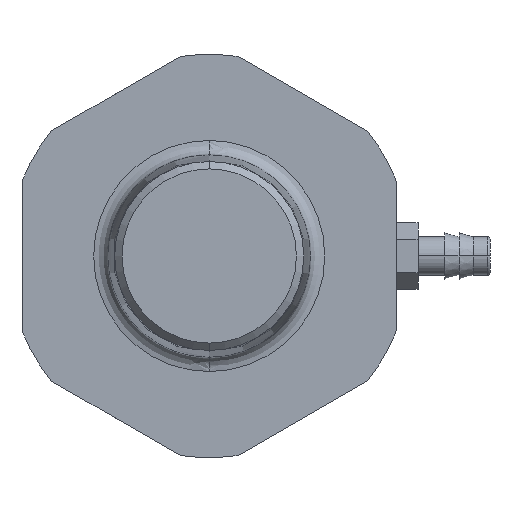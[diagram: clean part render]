
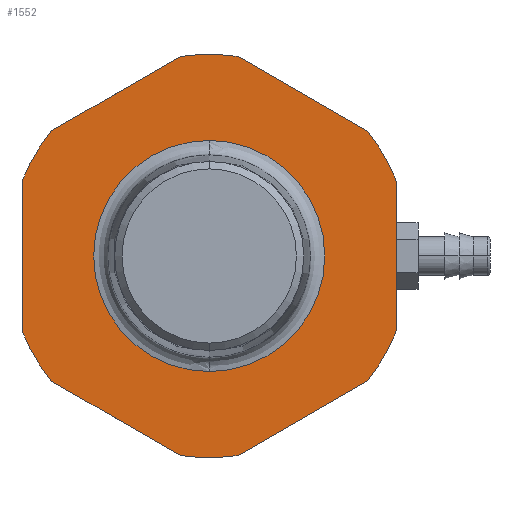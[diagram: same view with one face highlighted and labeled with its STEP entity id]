
A CAD part, left-side view. The second image highlights one B-rep face of the part: STEP entity #1552.
In plain terms, the highlighted planar face has unit normal (-1, 0, 0).
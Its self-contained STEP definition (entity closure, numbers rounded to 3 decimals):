
#1324=CARTESIAN_POINT('',(-2.875,0.0,0.501));
#1325=VERTEX_POINT('',#1324);
#1335=CARTESIAN_POINT('',(-2.875,0.,-0.501));
#1336=VERTEX_POINT('',#1335);
#1337=CARTESIAN_POINT('',(-2.875,0.0,0.0));
#1338=DIRECTION('',(-1.0,0.0,0.0));
#1339=DIRECTION('',(0.0,0.0,1.0));
#1340=AXIS2_PLACEMENT_3D('',#1337,#1338,#1339);
#1341=CIRCLE('',#1340,0.501);
#1342=EDGE_CURVE('',#1325,#1336,#1341,.T.);
#1433=CARTESIAN_POINT('',(-2.875,0.,0.0));
#1434=DIRECTION('',(-1.0,0.0,0.0));
#1435=DIRECTION('',(0.0,0.0,1.0));
#1436=AXIS2_PLACEMENT_3D('',#1433,#1434,#1435);
#1437=PLANE('',#1436);
#1438=CARTESIAN_POINT('',(-2.875,-0.125,-0.866));
#1439=VERTEX_POINT('',#1438);
#1440=CARTESIAN_POINT('',(-2.875,0.125,-0.866));
#1441=VERTEX_POINT('',#1440);
#1442=CARTESIAN_POINT('',(-2.875,0.,0.0));
#1443=DIRECTION('',(1.0,0.0,0.0));
#1444=DIRECTION('',(0.0,0.0,-1.0));
#1445=AXIS2_PLACEMENT_3D('',#1442,#1443,#1444);
#1446=CIRCLE('',#1445,0.875);
#1447=EDGE_CURVE('',#1439,#1441,#1446,.T.);
#1448=ORIENTED_EDGE('',*,*,#1447,.F.);
#1449=CARTESIAN_POINT('',(-2.875,-0.688,-0.541));
#1450=VERTEX_POINT('',#1449);
#1451=CARTESIAN_POINT('',(-2.875,-0.688,-0.541));
#1452=DIRECTION('',(0.0,0.866,-0.5));
#1453=VECTOR('',#1452,0.65);
#1454=LINE('',#1451,#1453);
#1455=EDGE_CURVE('',#1450,#1439,#1454,.T.);
#1456=ORIENTED_EDGE('',*,*,#1455,.F.);
#1457=CARTESIAN_POINT('',(-2.875,-0.813,-0.325));
#1458=VERTEX_POINT('',#1457);
#1459=CARTESIAN_POINT('',(-2.875,0.,0.0));
#1460=DIRECTION('',(1.0,0.0,0.0));
#1461=DIRECTION('',(0.0,-0.866,-0.5));
#1462=AXIS2_PLACEMENT_3D('',#1459,#1460,#1461);
#1463=CIRCLE('',#1462,0.875);
#1464=EDGE_CURVE('',#1458,#1450,#1463,.T.);
#1465=ORIENTED_EDGE('',*,*,#1464,.F.);
#1466=CARTESIAN_POINT('',(-2.875,-0.813,0.325));
#1467=VERTEX_POINT('',#1466);
#1468=CARTESIAN_POINT('',(-2.875,-0.813,0.325));
#1469=DIRECTION('',(0.0,0.0,-1.0));
#1470=VECTOR('',#1469,0.65);
#1471=LINE('',#1468,#1470);
#1472=EDGE_CURVE('',#1467,#1458,#1471,.T.);
#1473=ORIENTED_EDGE('',*,*,#1472,.F.);
#1474=CARTESIAN_POINT('',(-2.875,-0.688,0.541));
#1475=VERTEX_POINT('',#1474);
#1476=CARTESIAN_POINT('',(-2.875,0.0,0.0));
#1477=DIRECTION('',(1.0,0.0,0.0));
#1478=DIRECTION('',(0.0,-0.866,0.5));
#1479=AXIS2_PLACEMENT_3D('',#1476,#1477,#1478);
#1480=CIRCLE('',#1479,0.875);
#1481=EDGE_CURVE('',#1475,#1467,#1480,.T.);
#1482=ORIENTED_EDGE('',*,*,#1481,.F.);
#1483=CARTESIAN_POINT('',(-2.875,-0.125,0.866));
#1484=VERTEX_POINT('',#1483);
#1485=CARTESIAN_POINT('',(-2.875,-0.125,0.866));
#1486=DIRECTION('',(0.0,-0.866,-0.5));
#1487=VECTOR('',#1486,0.65);
#1488=LINE('',#1485,#1487);
#1489=EDGE_CURVE('',#1484,#1475,#1488,.T.);
#1490=ORIENTED_EDGE('',*,*,#1489,.F.);
#1491=CARTESIAN_POINT('',(-2.875,0.125,0.866));
#1492=VERTEX_POINT('',#1491);
#1493=CARTESIAN_POINT('',(-2.875,0.,0.0));
#1494=DIRECTION('',(1.0,0.0,0.0));
#1495=DIRECTION('',(0.0,0.0,1.0));
#1496=AXIS2_PLACEMENT_3D('',#1493,#1494,#1495);
#1497=CIRCLE('',#1496,0.875);
#1498=EDGE_CURVE('',#1492,#1484,#1497,.T.);
#1499=ORIENTED_EDGE('',*,*,#1498,.F.);
#1500=CARTESIAN_POINT('',(-2.875,0.687,0.541));
#1501=VERTEX_POINT('',#1500);
#1502=CARTESIAN_POINT('',(-2.875,0.687,0.541));
#1503=DIRECTION('',(0.0,-0.866,0.5));
#1504=VECTOR('',#1503,0.65);
#1505=LINE('',#1502,#1504);
#1506=EDGE_CURVE('',#1501,#1492,#1505,.T.);
#1507=ORIENTED_EDGE('',*,*,#1506,.F.);
#1508=CARTESIAN_POINT('',(-2.875,0.812,0.325));
#1509=VERTEX_POINT('',#1508);
#1510=CARTESIAN_POINT('',(-2.875,0.,0.0));
#1511=DIRECTION('',(1.0,0.0,0.0));
#1512=DIRECTION('',(0.0,0.866,0.5));
#1513=AXIS2_PLACEMENT_3D('',#1510,#1511,#1512);
#1514=CIRCLE('',#1513,0.875);
#1515=EDGE_CURVE('',#1509,#1501,#1514,.T.);
#1516=ORIENTED_EDGE('',*,*,#1515,.F.);
#1517=CARTESIAN_POINT('',(-2.875,0.812,-0.325));
#1518=VERTEX_POINT('',#1517);
#1519=CARTESIAN_POINT('',(-2.875,0.812,-0.325));
#1520=DIRECTION('',(0.0,0.0,1.0));
#1521=VECTOR('',#1520,0.65);
#1522=LINE('',#1519,#1521);
#1523=EDGE_CURVE('',#1518,#1509,#1522,.T.);
#1524=ORIENTED_EDGE('',*,*,#1523,.F.);
#1525=CARTESIAN_POINT('',(-2.875,0.687,-0.541));
#1526=VERTEX_POINT('',#1525);
#1527=CARTESIAN_POINT('',(-2.875,0.,0.0));
#1528=DIRECTION('',(1.0,0.0,0.0));
#1529=DIRECTION('',(0.0,0.866,-0.5));
#1530=AXIS2_PLACEMENT_3D('',#1527,#1528,#1529);
#1531=CIRCLE('',#1530,0.875);
#1532=EDGE_CURVE('',#1526,#1518,#1531,.T.);
#1533=ORIENTED_EDGE('',*,*,#1532,.F.);
#1534=CARTESIAN_POINT('',(-2.875,0.125,-0.866));
#1535=DIRECTION('',(0.0,0.866,0.5));
#1536=VECTOR('',#1535,0.65);
#1537=LINE('',#1534,#1536);
#1538=EDGE_CURVE('',#1441,#1526,#1537,.T.);
#1539=ORIENTED_EDGE('',*,*,#1538,.F.);
#1540=EDGE_LOOP('',(#1448,#1456,#1465,#1473,#1482,#1490,#1499,#1507,#1516,#1524,#1533,#1539));
#1541=FACE_OUTER_BOUND('',#1540,.T.);
#1542=ORIENTED_EDGE('',*,*,#1342,.F.);
#1543=CARTESIAN_POINT('',(-2.875,0.0,0.0));
#1544=DIRECTION('',(-1.0,0.0,0.0));
#1545=DIRECTION('',(0.0,0.0,1.0));
#1546=AXIS2_PLACEMENT_3D('',#1543,#1544,#1545);
#1547=CIRCLE('',#1546,0.501);
#1548=EDGE_CURVE('',#1336,#1325,#1547,.T.);
#1549=ORIENTED_EDGE('',*,*,#1548,.F.);
#1550=EDGE_LOOP('',(#1542,#1549));
#1551=FACE_BOUND('',#1550,.T.);
#1552=ADVANCED_FACE('',(#1541,#1551),#1437,.T.);
